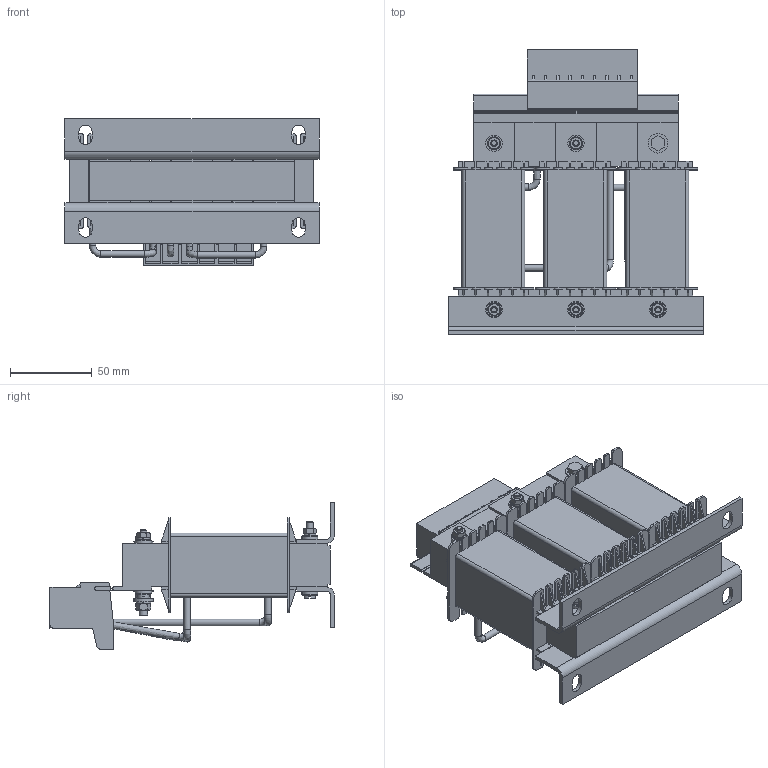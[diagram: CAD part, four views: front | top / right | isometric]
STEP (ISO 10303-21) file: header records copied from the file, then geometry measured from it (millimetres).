
FILE_DESCRIPTION((''),'2;1');
FILE_NAME('K:\Development\CAD-Files_RWK212_RWK305_FN504x\RWK305\RWK305-32-KL_2.stp','2014-02-25T14:56:32',('Samuel.Meier'),(''),'Autodesk Inventor 2013','Autodesk Inventor 2013','');
FILE_SCHEMA(('AUTOMOTIVE_DESIGN { 1 0 10303 214 1 1 1 1 }'));
Length unit declared in the file: millimetre
Products named in the file (1): RWK305-32-KL
Bounding box: 155 x 173.72 x 89.67 mm (x, y, z)
Volume: 609288.8 mm3; surface area: 156267.7 mm2
Topology: 1 solids, 1 shells, 1855 faces, 4976 edges, 3148 vertices
Faces by surface type: plane 1489, cylinder 241, bspline 100, cone 20, torus 5
Full cylindrical faces by diameter (mm): 4 x18, 5 x2, 7 x5, 8 x2, 9 x8, 10 x10, 12 x3
Entity records: 58794 total; most frequent: CARTESIAN_POINT 11444, ORIENTED_EDGE 9760, DIRECTION 8703, EDGE_CURVE 4880, VECTOR 4053, LINE 4053, VERTEX_POINT 3125, AXIS2_PLACEMENT_3D 2325
